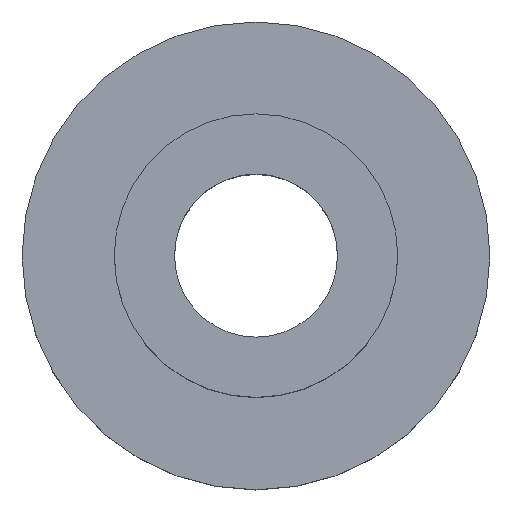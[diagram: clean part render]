
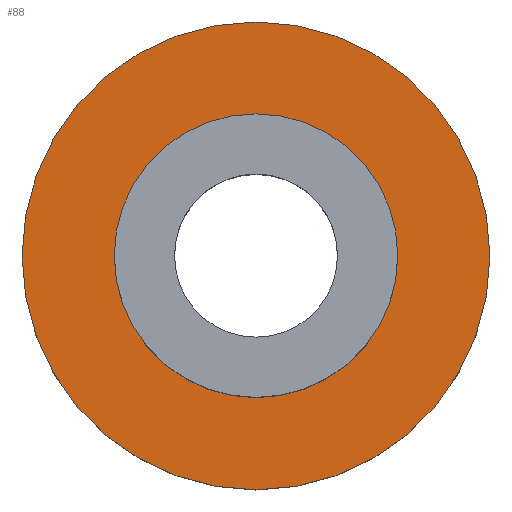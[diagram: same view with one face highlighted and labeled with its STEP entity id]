
A CAD part, top view. The second image highlights one B-rep face of the part: STEP entity #88.
In plain terms, the highlighted planar face has unit normal (0, 0, 1).
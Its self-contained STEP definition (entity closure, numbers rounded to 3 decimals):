
#16=FACE_BOUND('',#33,.T.);
#19=PLANE('',#114);
#25=FACE_OUTER_BOUND('',#32,.T.);
#32=EDGE_LOOP('',(#77));
#33=EDGE_LOOP('',(#78));
#43=CIRCLE('',#106,2.);
#46=CIRCLE('',#112,3.3);
#49=VERTEX_POINT('',#149);
#52=VERTEX_POINT('',#160);
#56=EDGE_CURVE('',#49,#49,#43,.T.);
#60=EDGE_CURVE('',#52,#52,#46,.T.);
#77=ORIENTED_EDGE('',*,*,#60,.T.);
#78=ORIENTED_EDGE('',*,*,#56,.T.);
#88=ADVANCED_FACE('',(#25,#16),#19,.T.);
#106=AXIS2_PLACEMENT_3D('',#151,#123,#124);
#112=AXIS2_PLACEMENT_3D('',#161,#136,#137);
#114=AXIS2_PLACEMENT_3D('',#165,#141,#142);
#123=DIRECTION('center_axis',(0.,0.,-1.));
#124=DIRECTION('ref_axis',(1.,0.,0.));
#136=DIRECTION('center_axis',(0.,0.,1.));
#137=DIRECTION('ref_axis',(1.,0.,0.));
#141=DIRECTION('center_axis',(0.,0.,1.));
#142=DIRECTION('ref_axis',(1.,0.,0.));
#149=CARTESIAN_POINT('',(6.2,67.25,8.65));
#151=CARTESIAN_POINT('Origin',(8.2,67.25,8.65));
#160=CARTESIAN_POINT('',(4.9,67.25,8.65));
#161=CARTESIAN_POINT('Origin',(8.2,67.25,8.65));
#165=CARTESIAN_POINT('Origin',(8.2,67.25,8.65));
